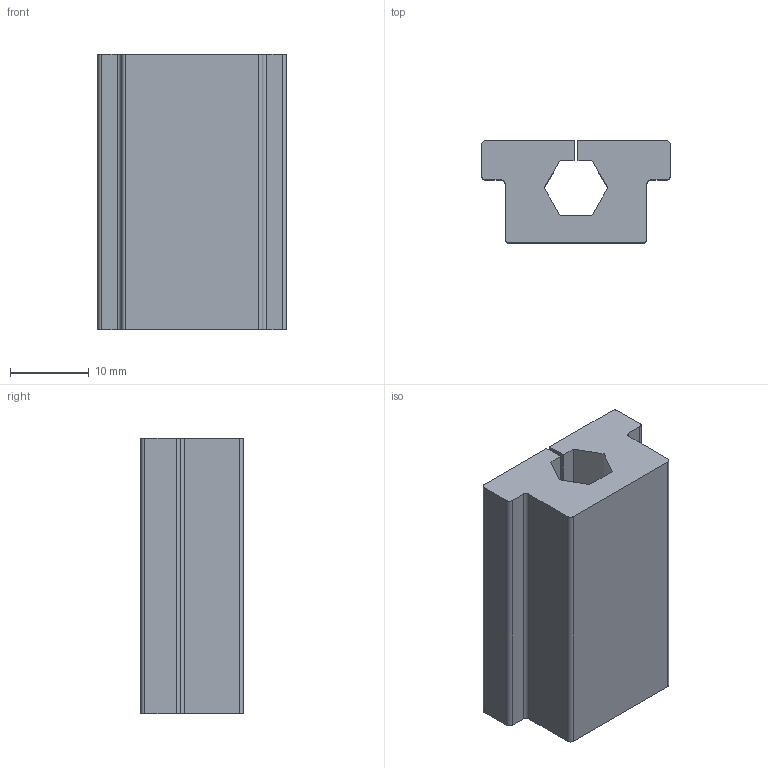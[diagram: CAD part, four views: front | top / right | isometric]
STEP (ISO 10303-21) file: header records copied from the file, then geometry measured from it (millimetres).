
FILE_DESCRIPTION( ('This file contains a STEP AP42 implementation' ,'as created by ZW3D STEP Interface translator.') ,'2;1' );
FILE_NAME( 'ShaftHolder7mmHex.stp' ,'24 625.2052 4', (''), ('ZWCAD Software Co.'), 'Version 1.0', 'ZW3D to STEP translator', '' );
FILE_SCHEMA(('AUTOMOTIVE_DESIGN { 1 0 10303 214 1 1 1 1 }'));
Length unit declared in the file: millimetre
Products named in the file (2): 0; ShaftHolder7mmHex
Bounding box: 24.01 x 13 x 35 mm (x, y, z)
Volume: 7664 mm3; surface area: 3944.6 mm2
Topology: 1 solids, 1 shells, 40 faces, 114 edges, 76 vertices
Faces by surface type: plane 26, cylinder 14
Entity records: 1376 total; most frequent: CARTESIAN_POINT 231, ORIENTED_EDGE 228, DIRECTION 224, EDGE_CURVE 114, VECTOR 86, LINE 86, VERTEX_POINT 76, AXIS2_PLACEMENT_3D 69
